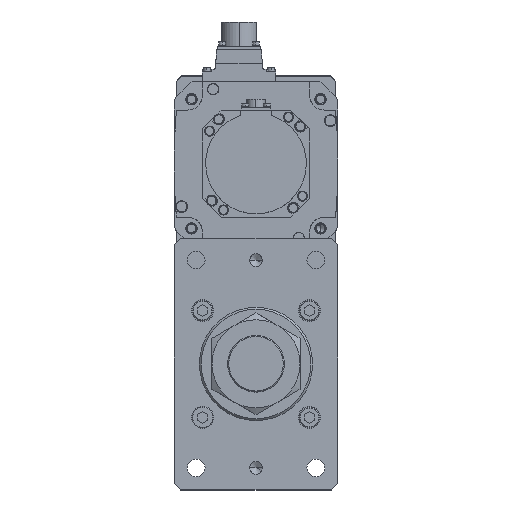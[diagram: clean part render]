
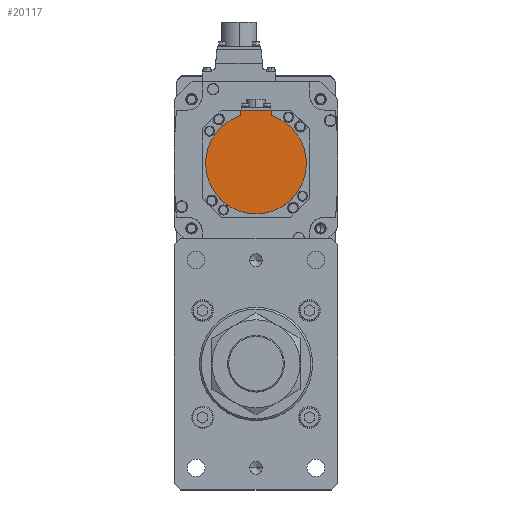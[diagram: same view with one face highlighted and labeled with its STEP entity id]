
A CAD part, top view. The second image highlights one B-rep face of the part: STEP entity #20117.
In plain terms, the highlighted planar face has unit normal (0, 0, 1) as drawn and (0, 0, -1) by its records, which use the part's own axes.
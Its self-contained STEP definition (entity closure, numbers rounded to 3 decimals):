
#1339 = EDGE_LOOP ( 'NONE', ( #15608, #18950, #1372, #5345, #7278, #11217 ) ) ;
#1372 = ORIENTED_EDGE ( 'NONE', *, *, #33360, .F. ) ;
#1639 = CARTESIAN_POINT ( 'NONE',  ( 40., 0., -146.5 ) ) ;
#1738 = CARTESIAN_POINT ( 'NONE',  ( 0., 0., -146.5 ) ) ;
#2268 = CARTESIAN_POINT ( 'NONE',  ( 0., -42.5, -146.5 ) ) ;
#4727 = CIRCLE ( 'NONE', #16477, 40. ) ;
#5345 = ORIENTED_EDGE ( 'NONE', *, *, #21744, .F. ) ;
#5892 = DIRECTION ( 'NONE',  ( 0., 1., 0. ) ) ;
#5984 = CARTESIAN_POINT ( 'NONE',  ( 0., -1.249, -146.5 ) ) ;
#5993 = CARTESIAN_POINT ( 'NONE',  ( 0., 0., -146.5 ) ) ;
#6230 = CARTESIAN_POINT ( 'NONE',  ( 12., -38.158, -146.5 ) ) ;
#6577 = FACE_OUTER_BOUND ( 'NONE', #1339, .T. ) ;
#7278 = ORIENTED_EDGE ( 'NONE', *, *, #15075, .F. ) ;
#8929 = LINE ( 'NONE', #32504, #23567 ) ;
#9009 = VERTEX_POINT ( 'NONE', #33834 ) ;
#9333 = VERTEX_POINT ( 'NONE', #20008 ) ;
#11217 = ORIENTED_EDGE ( 'NONE', *, *, #21658, .T. ) ;
#11904 = DIRECTION ( 'NONE',  ( 0., 0., 1. ) ) ;
#12653 = DIRECTION ( 'NONE',  ( 0., 0., 1. ) ) ;
#12784 = EDGE_CURVE ( 'NONE', #28982, #9333, #8929, .T. ) ;
#12927 = AXIS2_PLACEMENT_3D ( 'NONE', #28684, #12653, #18030 ) ;
#13431 = DIRECTION ( 'NONE',  ( -1., 0., 0. ) ) ;
#13887 = DIRECTION ( 'NONE',  ( 0., 0., 1. ) ) ;
#13911 = DIRECTION ( 'NONE',  ( 0., 1., 0. ) ) ;
#14008 = DIRECTION ( 'NONE',  ( 0., 0., 1. ) ) ;
#14108 = AXIS2_PLACEMENT_3D ( 'NONE', #1738, #11904, #22770 ) ;
#14900 = EDGE_CURVE ( 'NONE', #9009, #9333, #30272, .T. ) ;
#15075 = EDGE_CURVE ( 'NONE', #18743, #26112, #29001, .T. ) ;
#15608 = ORIENTED_EDGE ( 'NONE', *, *, #12784, .T. ) ;
#16477 = AXIS2_PLACEMENT_3D ( 'NONE', #5993, #13887, #32582 ) ;
#16723 = CARTESIAN_POINT ( 'NONE',  ( 12., -42.5, -146.5 ) ) ;
#16778 = LINE ( 'NONE', #2268, #33508 ) ;
#17817 = CARTESIAN_POINT ( 'NONE',  ( -12., -42.5, -146.5 ) ) ;
#18030 = DIRECTION ( 'NONE',  ( 1., 0., 0. ) ) ;
#18743 = VERTEX_POINT ( 'NONE', #16723 ) ;
#18950 = ORIENTED_EDGE ( 'NONE', *, *, #14900, .F. ) ;
#20008 = CARTESIAN_POINT ( 'NONE',  ( -12., -38.158, -146.5 ) ) ;
#20117 = ADVANCED_FACE ( 'NONE', ( #6577 ), #21967, .F. ) ;
#21658 = EDGE_CURVE ( 'NONE', #18743, #28982, #16778, .T. ) ;
#21744 = EDGE_CURVE ( 'NONE', #26112, #32401, #4727, .T. ) ;
#21967 = PLANE ( 'NONE',  #30784 ) ;
#22770 = DIRECTION ( 'NONE',  ( 1., 0., 0. ) ) ;
#22862 = CIRCLE ( 'NONE', #14108, 40. ) ;
#23567 = VECTOR ( 'NONE', #13911, 1000. ) ;
#23979 = VECTOR ( 'NONE', #5892, 1000. ) ;
#24472 = CARTESIAN_POINT ( 'NONE',  ( 12., -1.249, -146.5 ) ) ;
#24655 = DIRECTION ( 'NONE',  ( 1., 0., 0. ) ) ;
#26112 = VERTEX_POINT ( 'NONE', #6230 ) ;
#28684 = CARTESIAN_POINT ( 'NONE',  ( 0., 0., -146.5 ) ) ;
#28982 = VERTEX_POINT ( 'NONE', #17817 ) ;
#29001 = LINE ( 'NONE', #24472, #23979 ) ;
#30272 = CIRCLE ( 'NONE', #12927, 40. ) ;
#30784 = AXIS2_PLACEMENT_3D ( 'NONE', #5984, #14008, #24655 ) ;
#32401 = VERTEX_POINT ( 'NONE', #1639 ) ;
#32504 = CARTESIAN_POINT ( 'NONE',  ( -12., -40.329, -146.5 ) ) ;
#32582 = DIRECTION ( 'NONE',  ( 1., 0., 0. ) ) ;
#33360 = EDGE_CURVE ( 'NONE', #32401, #9009, #22862, .T. ) ;
#33508 = VECTOR ( 'NONE', #13431, 1000. ) ;
#33834 = CARTESIAN_POINT ( 'NONE',  ( -40., 0., -146.5 ) ) ;
